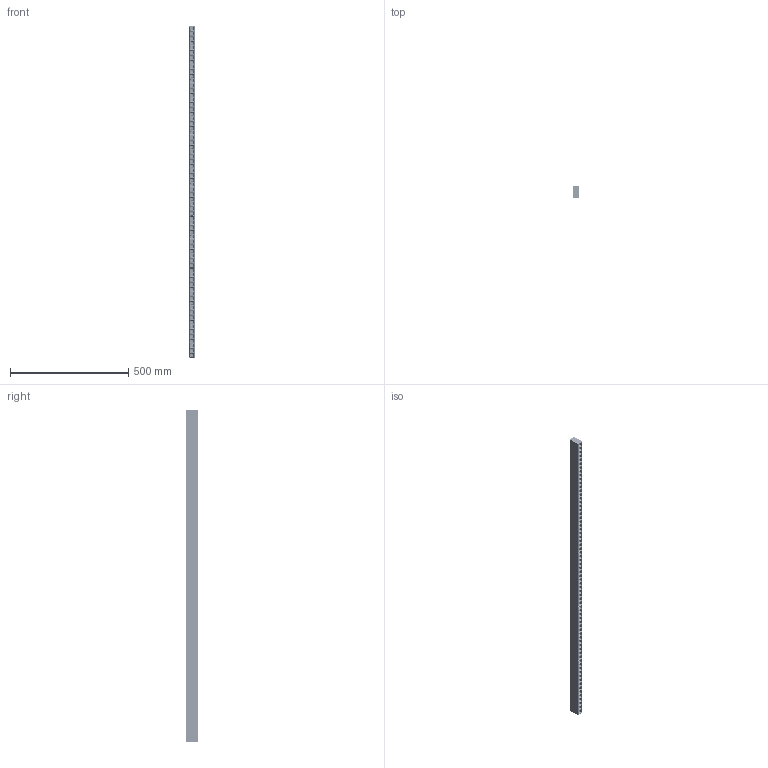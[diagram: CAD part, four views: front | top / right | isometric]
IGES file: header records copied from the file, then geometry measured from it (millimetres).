
Start section: SolidWorks IGES file using analytic representation for surfaces
Global section: file name: L:\Tecnico_PMT\MARTINA\ZIRKOL PLAFONE\Zirkol L PLAFONE UGR DEFINITIVO\Zirkol L Plafone UGR.IGS; native system: SolidWorks 2016; preprocessor: SolidWorks 2016; author: MartinaCornero; date: 220124.105909; units: millimetre
Bounding box: 26.5 x 50.29 x 1402.5 mm (x, y, z)
Surface area: 741978.5 mm2 (no closed solid volume)
Topology: 0 solids, 0 shells, 37953 faces, 272321 edges, 271591 vertices
Faces by surface type: bspline 27425, revolution 10528
